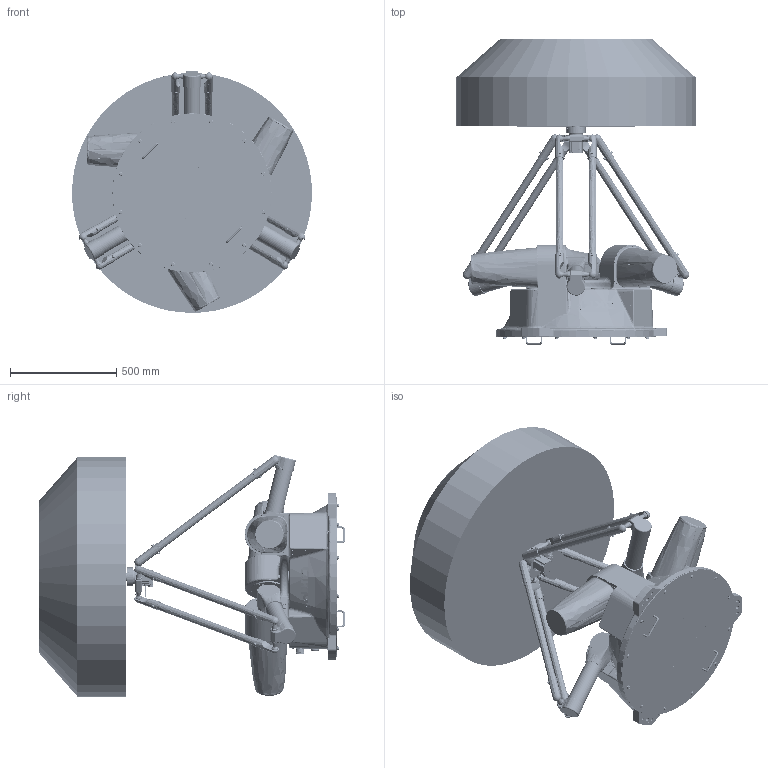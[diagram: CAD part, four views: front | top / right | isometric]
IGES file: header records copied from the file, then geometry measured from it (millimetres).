
Start section: SolidWorks IGES file using analytic representation for surfaces
Global section: file name: X:\03研发部\50-Robot\20-Delta\240-AP25X\10-Design\02-Mechanical\02-FDR 阶段资料\04-对外发布模型\AP25X-1130-1544外发模型\AP25X-1130-1544-T0-V3.0.0.IGS; native system: SolidWorks 2017; preprocessor: SolidWorks 2017; author: 1023; date: 250122.105033; units: millimetre
Bounding box: 1129.98 x 1439 x 1138.68 mm (x, y, z)
Surface area: 8383960.5 mm2 (no closed solid volume)
Topology: 0 solids, 0 shells, 8563 faces, 123670 edges, 123218 vertices
Faces by surface type: bspline 4619, revolution 3944
